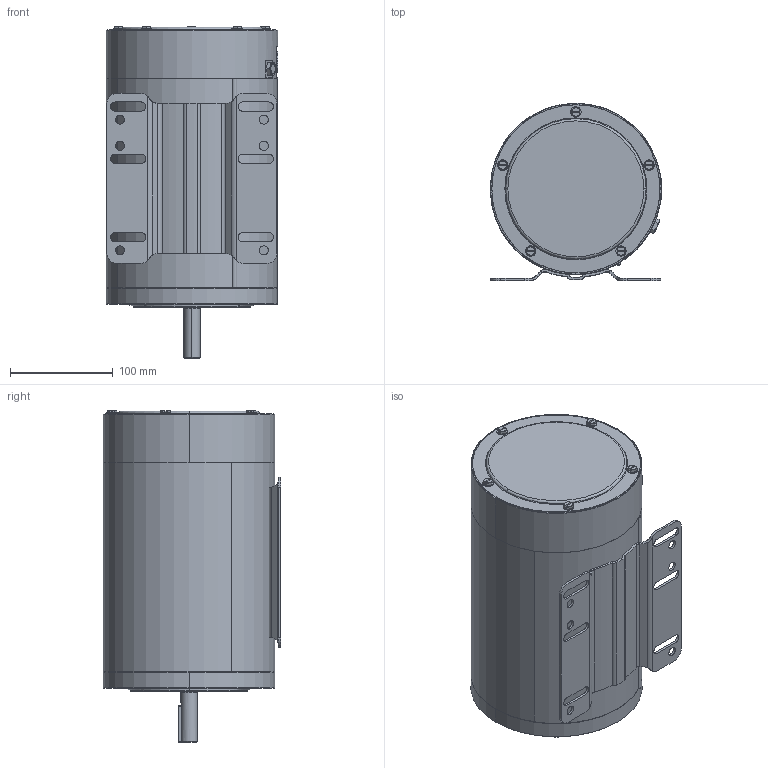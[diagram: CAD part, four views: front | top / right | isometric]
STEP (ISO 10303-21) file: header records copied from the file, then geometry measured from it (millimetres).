
FILE_DESCRIPTION (( 'STEP AP203' ), '1' );
FILE_NAME ('034991-800_Rev02.STEP', '2017-10-25T10:59:16', ( '' ), ( '' ), 'SwSTEP 2.0', 'SolidWorks 2015', '' );
FILE_SCHEMA (( 'CONFIG_CONTROL_DESIGN' ));
Products named in the file (1): 034991-800_Rev02
Bounding box: 166.64 x 172.12 x 322.49 mm (x, y, z)
Volume: 915199.2 mm3; surface area: 578556.1 mm2
Topology: 22 solids, 22 shells, 1675 faces, 3908 edges, 2281 vertices
Faces by surface type: cylinder 579, plane 328, torus 308, bspline 217, cone 192, sphere 51
Entity records: 59058 total; most frequent: CARTESIAN_POINT 21929, DIRECTION 7989, ORIENTED_EDGE 7680, EDGE_CURVE 3840, AXIS2_PLACEMENT_3D 3362, VERTEX_POINT 2277, CIRCLE 1903, EDGE_LOOP 1821
